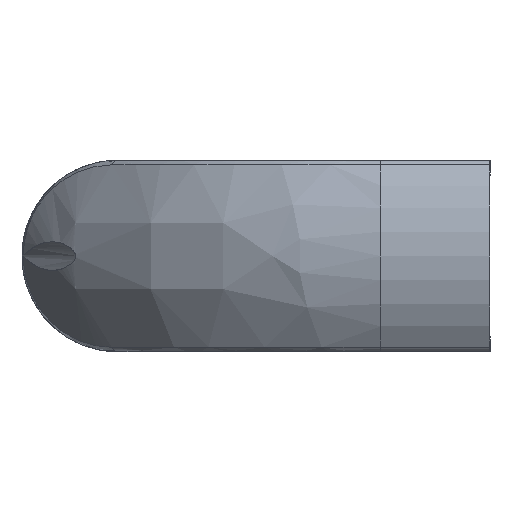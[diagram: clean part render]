
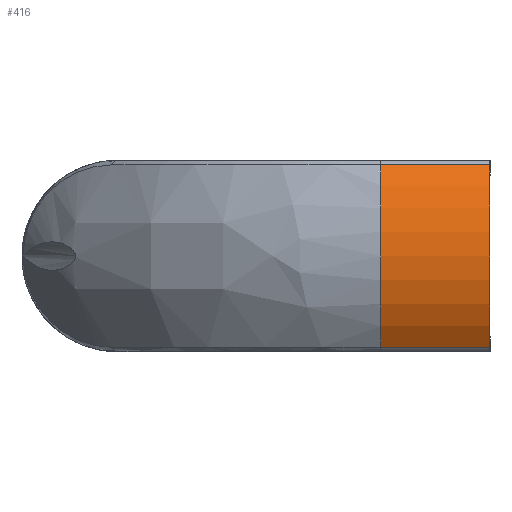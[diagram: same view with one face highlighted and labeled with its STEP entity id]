
A CAD part, left-side view. The second image highlights one B-rep face of the part: STEP entity #416.
In plain terms, the highlighted cylindrical face has radius 28.521 mm (diameter 57.042 mm), a partial arc.
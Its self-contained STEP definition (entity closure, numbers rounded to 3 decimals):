
#66 = VERTEX_POINT ( 'NONE', #1217 ) ;
#171 = CIRCLE ( 'NONE', #393, 28.521 ) ;
#393 = AXIS2_PLACEMENT_3D ( 'NONE', #3801, #1126, #4250 ) ;
#416 = ADVANCED_FACE ( 'NONE', ( #2853 ), #4949, .T. ) ;
#704 = DIRECTION ( 'NONE',  ( 0., 1., 0. ) ) ;
#885 = AXIS2_PLACEMENT_3D ( 'NONE', #3391, #704, #3867 ) ;
#1126 = DIRECTION ( 'NONE',  ( 0., 1., 0. ) ) ;
#1177 = ORIENTED_EDGE ( 'NONE', *, *, #3733, .T. ) ;
#1203 = VERTEX_POINT ( 'NONE', #3103 ) ;
#1217 = CARTESIAN_POINT ( 'NONE',  ( -31.122, 20., -16.669 ) ) ;
#1374 = EDGE_CURVE ( 'NONE', #1203, #5154, #4392, .T. ) ;
#1683 = ORIENTED_EDGE ( 'NONE', *, *, #1374, .T. ) ;
#2025 = VECTOR ( 'NONE', #2938, 1000. ) ;
#2306 = EDGE_LOOP ( 'NONE', ( #5659, #1177, #4947, #1683 ) ) ;
#2325 = CARTESIAN_POINT ( 'NONE',  ( -31.122, 20., 16.669 ) ) ;
#2836 = CARTESIAN_POINT ( 'NONE',  ( -31.122, 20., 16.669 ) ) ;
#2853 = FACE_OUTER_BOUND ( 'NONE', #2306, .T. ) ;
#2938 = DIRECTION ( 'NONE',  ( 0., 1., 0. ) ) ;
#3012 = CARTESIAN_POINT ( 'NONE',  ( -31.122, 20., -16.669 ) ) ;
#3090 = DIRECTION ( 'NONE',  ( 0., 0., -1. ) ) ;
#3103 = CARTESIAN_POINT ( 'NONE',  ( -31.122, 0., 16.669 ) ) ;
#3163 = DIRECTION ( 'NONE',  ( 0., -1., 0. ) ) ;
#3391 = CARTESIAN_POINT ( 'NONE',  ( -7.979, 0., 0. ) ) ;
#3445 = AXIS2_PLACEMENT_3D ( 'NONE', #3589, #3163, #3090 ) ;
#3589 = CARTESIAN_POINT ( 'NONE',  ( -7.979, 20., 0. ) ) ;
#3612 = EDGE_CURVE ( 'NONE', #5896, #1203, #4524, .T. ) ;
#3733 = EDGE_CURVE ( 'NONE', #66, #5896, #4123, .T. ) ;
#3801 = CARTESIAN_POINT ( 'NONE',  ( -7.979, 20., 0. ) ) ;
#3833 = VECTOR ( 'NONE', #4362, 1000. ) ;
#3867 = DIRECTION ( 'NONE',  ( 0., 0., 1. ) ) ;
#4123 = LINE ( 'NONE', #3012, #3833 ) ;
#4250 = DIRECTION ( 'NONE',  ( 0., 0., 1. ) ) ;
#4362 = DIRECTION ( 'NONE',  ( 0., -1., 0. ) ) ;
#4392 = LINE ( 'NONE', #2836, #2025 ) ;
#4524 = CIRCLE ( 'NONE', #885, 28.521 ) ;
#4947 = ORIENTED_EDGE ( 'NONE', *, *, #3612, .T. ) ;
#4949 = CYLINDRICAL_SURFACE ( 'NONE', #3445, 28.521 ) ;
#5154 = VERTEX_POINT ( 'NONE', #2325 ) ;
#5397 = EDGE_CURVE ( 'NONE', #66, #5154, #171, .T. ) ;
#5436 = CARTESIAN_POINT ( 'NONE',  ( -31.122, 0., -16.669 ) ) ;
#5659 = ORIENTED_EDGE ( 'NONE', *, *, #5397, .F. ) ;
#5896 = VERTEX_POINT ( 'NONE', #5436 ) ;
